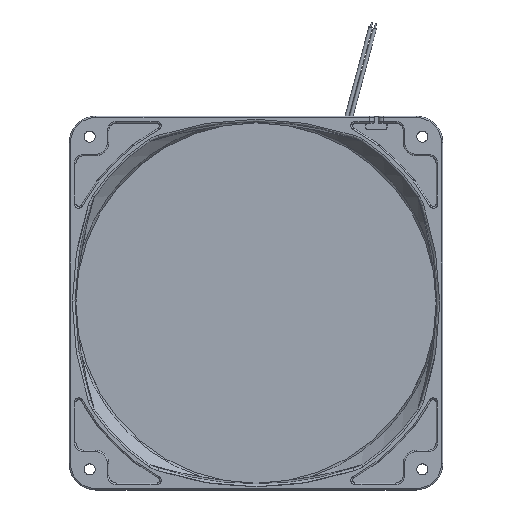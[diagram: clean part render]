
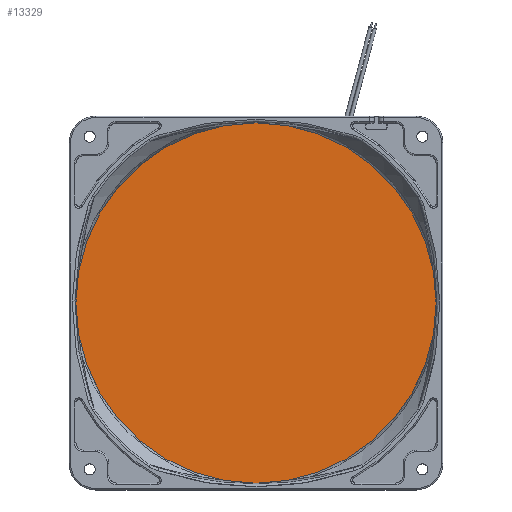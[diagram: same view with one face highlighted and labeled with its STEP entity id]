
A CAD part, top view. The second image highlights one B-rep face of the part: STEP entity #13329.
In plain terms, the highlighted planar face has unit normal (0, 0, 1).
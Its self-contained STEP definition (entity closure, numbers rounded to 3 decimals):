
#1268=CARTESIAN_POINT('',(0.,0.,16.2));
#1269=DIRECTION('',(0.,0.,1.));
#1270=DIRECTION('',(0.,1.,0.));
#1271=AXIS2_PLACEMENT_3D('',#1268,#1269,#1270);
#1276=CARTESIAN_POINT('',(0.,0.,16.2));
#1277=DIRECTION('',(0.,0.,1.));
#1278=DIRECTION('',(1.,0.,0.));
#1279=AXIS2_PLACEMENT_3D('',#1276,#1277,#1278);
#1284=CARTESIAN_POINT('',(0.,0.,16.2));
#1285=DIRECTION('',(0.,0.,1.));
#1286=DIRECTION('',(0.,-1.,0.));
#1287=AXIS2_PLACEMENT_3D('',#1284,#1285,#1286);
#1292=CARTESIAN_POINT('',(0.,0.,16.2));
#1293=DIRECTION('',(0.,0.,1.));
#1294=DIRECTION('',(-1.,0.,0.));
#1295=AXIS2_PLACEMENT_3D('',#1292,#1293,#1294);
#1952=CARTESIAN_POINT('',(0.,-67.501,
16.193));
#10733=CARTESIAN_POINT('',(0.,67.501,
16.193));
#12103=VERTEX_POINT('',#1952);
#12217=VERTEX_POINT('',#10733);
#12255=CARTESIAN_POINT('',(-67.501,0.,16.2));
#12256=VERTEX_POINT('',#12255);
#12257=CARTESIAN_POINT('',(67.501,0.,16.2));
#12258=VERTEX_POINT('',#12257);
#13318=CARTESIAN_POINT('',(0.,0.,16.2));
#13319=DIRECTION('',(0.,0.,1.));
#13320=DIRECTION('',(0.,1.,0.));
#13321=AXIS2_PLACEMENT_3D('',#13318,#13319,#13320);
#13322=PLANE('',#13321);
#13323=ORIENTED_EDGE('',*,*,#13268,.F.);
#13324=ORIENTED_EDGE('',*,*,#12480,.F.);
#13325=ORIENTED_EDGE('',*,*,#12649,.F.);
#13326=ORIENTED_EDGE('',*,*,#13313,.F.);
#13327=EDGE_LOOP('',(#13323,#13324,#13325,#13326));
#13328=FACE_OUTER_BOUND('',#13327,.F.);
#13329=ADVANCED_FACE('',(#13328),#13322,.T.);
#1272=CIRCLE('',#1271,67.501);
#1280=CIRCLE('',#1279,67.501);
#1288=CIRCLE('',#1287,67.501);
#1296=CIRCLE('',#1295,67.501);
#12480=EDGE_CURVE('',#12258,#12217,#1280,.T.);
#12649=EDGE_CURVE('',#12103,#12258,#1288,.T.);
#13268=EDGE_CURVE('',#12217,#12256,#1272,.T.);
#13313=EDGE_CURVE('',#12256,#12103,#1296,.T.);
